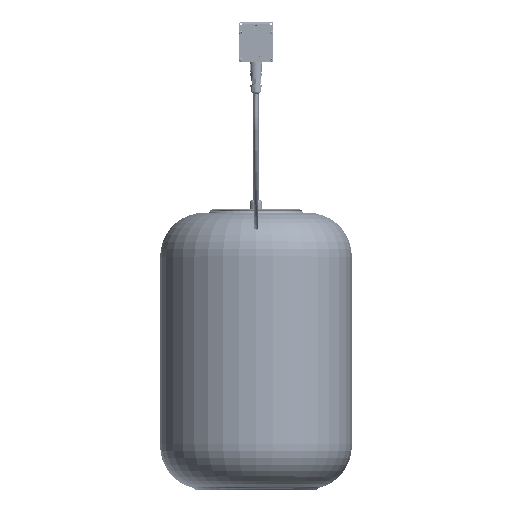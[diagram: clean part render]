
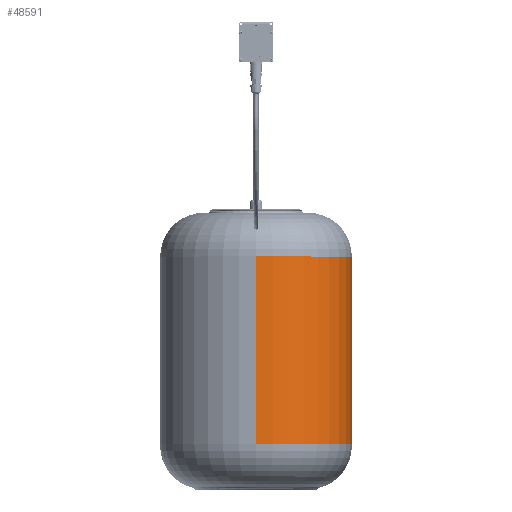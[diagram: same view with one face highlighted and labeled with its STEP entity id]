
A CAD part, top view. The second image highlights one B-rep face of the part: STEP entity #48591.
In plain terms, the highlighted cylindrical face has radius 157.5 mm (diameter 315 mm), a partial arc.
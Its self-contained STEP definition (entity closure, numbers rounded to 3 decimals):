
#9755 = AXIS2_PLACEMENT_3D ( 'NONE', #121889, #99953, #87667 ) ;
#9921 = ORIENTED_EDGE ( 'NONE', *, *, #13113, .F. ) ;
#10775 = DIRECTION ( 'NONE',  ( 0., 0., -1. ) ) ;
#12434 = EDGE_LOOP ( 'NONE', ( #95560, #61511, #126395, #9921 ) ) ;
#13113 = EDGE_CURVE ( 'NONE', #98972, #30628, #62997, .T. ) ;
#19432 = AXIS2_PLACEMENT_3D ( 'NONE', #101267, #72499, #41678 ) ;
#25287 = AXIS2_PLACEMENT_3D ( 'NONE', #32637, #117487, #10775 ) ;
#30628 = VERTEX_POINT ( 'NONE', #126977 ) ;
#30749 = CYLINDRICAL_SURFACE ( 'NONE', #19432, 157.5 ) ;
#31492 = CARTESIAN_POINT ( 'NONE',  ( 0., 0., -157.5 ) ) ;
#32637 = CARTESIAN_POINT ( 'NONE',  ( 0., -154.888, 0. ) ) ;
#34883 = LINE ( 'NONE', #66388, #103804 ) ;
#39475 = EDGE_CURVE ( 'NONE', #98972, #81946, #77541, .T. ) ;
#40257 = EDGE_CURVE ( 'NONE', #30628, #91466, #47069, .T. ) ;
#41678 = DIRECTION ( 'NONE',  ( 0., 0., -1. ) ) ;
#47069 = CIRCLE ( 'NONE', #25287, 157.5 ) ;
#48591 = ADVANCED_FACE ( 'NONE', ( #82757 ), #30749, .T. ) ;
#61511 = ORIENTED_EDGE ( 'NONE', *, *, #104055, .T. ) ;
#62310 = DIRECTION ( 'NONE',  ( 0., -1., 0. ) ) ;
#62997 = LINE ( 'NONE', #31492, #133504 ) ;
#66388 = CARTESIAN_POINT ( 'NONE',  ( 0., 0., 157.5 ) ) ;
#72499 = DIRECTION ( 'NONE',  ( 0., -1., 0. ) ) ;
#77541 = CIRCLE ( 'NONE', #9755, 157.5 ) ;
#81946 = VERTEX_POINT ( 'NONE', #94551 ) ;
#82757 = FACE_OUTER_BOUND ( 'NONE', #12434, .T. ) ;
#87667 = DIRECTION ( 'NONE',  ( 0., 0., -1. ) ) ;
#91466 = VERTEX_POINT ( 'NONE', #132200 ) ;
#94551 = CARTESIAN_POINT ( 'NONE',  ( 0., 153., 157.5 ) ) ;
#95560 = ORIENTED_EDGE ( 'NONE', *, *, #39475, .T. ) ;
#98972 = VERTEX_POINT ( 'NONE', #111919 ) ;
#99953 = DIRECTION ( 'NONE',  ( 0., -1., 0. ) ) ;
#101267 = CARTESIAN_POINT ( 'NONE',  ( 0., 0., 0. ) ) ;
#103804 = VECTOR ( 'NONE', #129354, 1000. ) ;
#104055 = EDGE_CURVE ( 'NONE', #81946, #91466, #34883, .T. ) ;
#111919 = CARTESIAN_POINT ( 'NONE',  ( 0., 153., -157.5 ) ) ;
#117487 = DIRECTION ( 'NONE',  ( 0., -1., 0. ) ) ;
#121889 = CARTESIAN_POINT ( 'NONE',  ( 0., 153., 0. ) ) ;
#126395 = ORIENTED_EDGE ( 'NONE', *, *, #40257, .F. ) ;
#126977 = CARTESIAN_POINT ( 'NONE',  ( 0., -154.888, -157.5 ) ) ;
#129354 = DIRECTION ( 'NONE',  ( 0., -1., 0. ) ) ;
#132200 = CARTESIAN_POINT ( 'NONE',  ( 0., -154.888, 157.5 ) ) ;
#133504 = VECTOR ( 'NONE', #62310, 1000. ) ;
